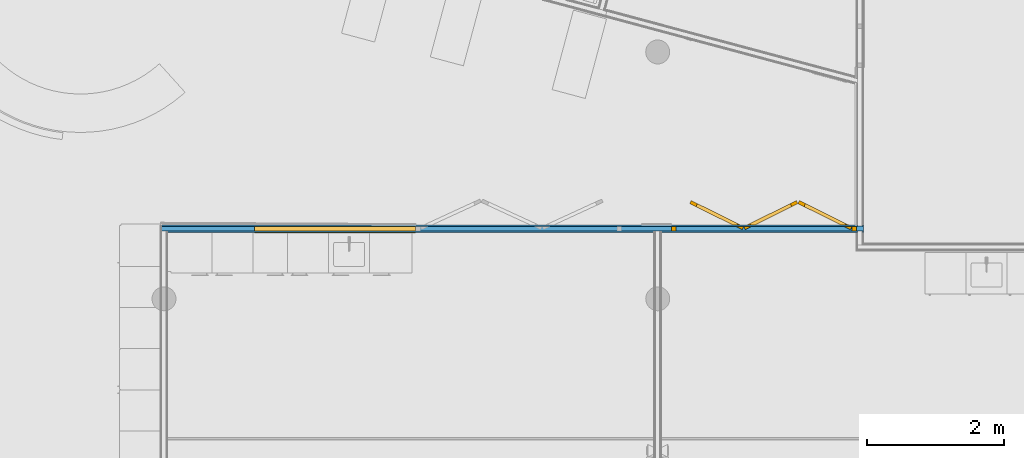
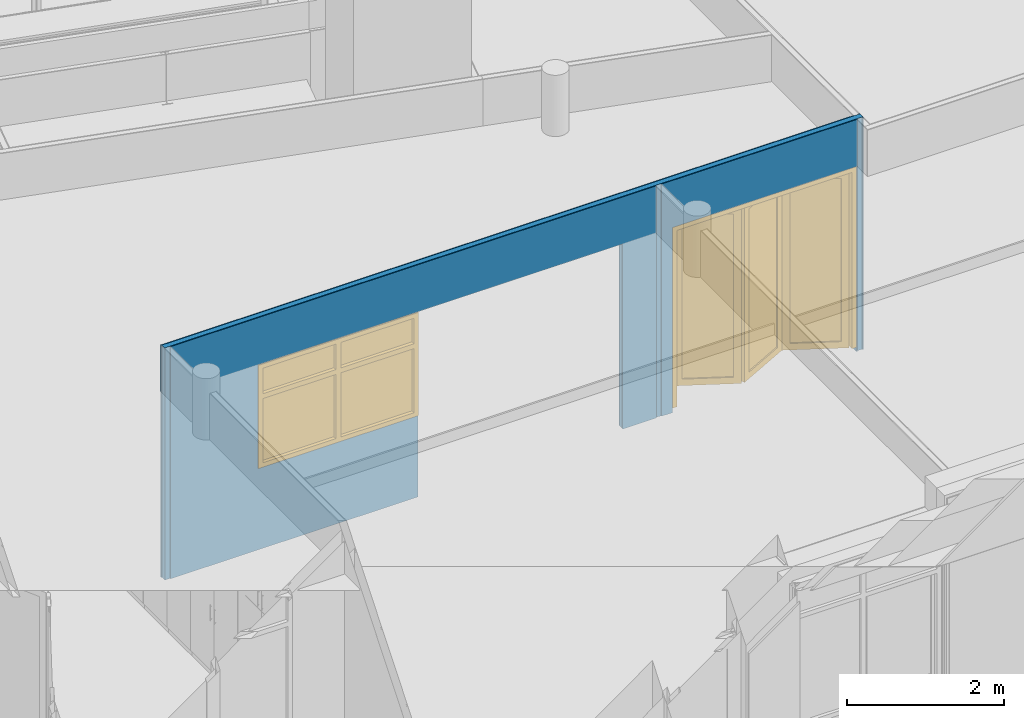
# One storey, part 25 of 167: 3 building element parts, 1 door, 1 window, 3 openings, 1 element without a shape of its own.
"""IFC2X3 building model written with IfcOpenShell, lengths in millimetres."""

from ifc_helpers import new_model, entity, si_unit, converted_unit, derived_unit, money_unit, direction, frame, origin_with_axes, place, context, subcontext, project, spatial, open_shell, faceted_brep, surface_model, material, type_object, element, fill, aggregate, save


model = new_model("IFC2X3")

# Units and contexts
model_context = context("Model", 3, precision=0.01, world=origin_with_axes(), true_north=direction((0.0, 1.0)))
plan_context = context("Plan", 3, precision=0.01, world=origin_with_axes(), true_north=direction((0.0, 1.0)))
body_context = subcontext(model_context, "Body", "Model", "MODEL_VIEW")
ifc_project = project(units=[si_unit("LENGTHUNIT", "METRE", prefix="MILLI"), si_unit("AREAUNIT", "SQUARE_METRE"), si_unit("VOLUMEUNIT", "CUBIC_METRE"), converted_unit("PLANEANGLEUNIT", "DEGREE", entity("IfcPlaneAngleMeasure", 0.0174532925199), si_unit("PLANEANGLEUNIT", "RADIAN"), dimensions=[0, 0, 0, 0, 0, 0, 0]), si_unit("SOLIDANGLEUNIT", "STERADIAN"), money_unit("EUR"), converted_unit("TIMEUNIT", "Year", entity("IfcTimeMeasure", 31556926.0), si_unit("TIMEUNIT", "SECOND"), dimensions=[0, 0, 1, 0, 0, 0, 0]), si_unit("MASSUNIT", "GRAM", prefix="KILO"), si_unit("THERMODYNAMICTEMPERATUREUNIT", "DEGREE_CELSIUS"), si_unit("LUMINOUSINTENSITYUNIT", "LUMEN"), si_unit("ENERGYUNIT", "JOULE", prefix="MEGA"), derived_unit("THERMALCONDUCTANCEUNIT", [(si_unit("POWERUNIT", "WATT"), 1), (si_unit("LENGTHUNIT", "METRE"), -1), (si_unit("THERMODYNAMICTEMPERATUREUNIT", "KELVIN"), -1)]), derived_unit("SPECIFICHEATCAPACITYUNIT", [(si_unit("ENERGYUNIT", "JOULE"), 1), (si_unit("MASSUNIT", "GRAM", prefix="KILO"), -1), (si_unit("THERMODYNAMICTEMPERATUREUNIT", "KELVIN"), -1)]), derived_unit("MASSDENSITYUNIT", [(si_unit("MASSUNIT", "GRAM", prefix="KILO"), 1), (si_unit("VOLUMEUNIT", "CUBIC_METRE"), -1)])], contexts=[model_context, plan_context])

# Site, building, storey
site_placement = place(None, origin_with_axes())
site = spatial("IfcSite", under=ifc_project, at=site_placement, Name="Site", CompositionType="ELEMENT")
building_placement = place(site_placement, origin_with_axes())
building = spatial("IfcBuilding", under=site, at=building_placement, Name="Naam gebouw", CompositionType="ELEMENT")
storey_placement = place(building_placement, origin_with_axes())
storey = spatial("IfcBuildingStorey", under=building, at=storey_placement, Name="Begane grond", CompositionType="ELEMENT", Elevation=0.0)

# Window
window_style = type_object("IfcWindowStyle", Name="R2 bl ol 24", ConstructionType="NOTDEFINED", OperationType="USERDEFINED", ParameterTakesPrecedence=False, Sizeable=False)
wall_placement = place(storey_placement, frame((24600.0, 8223.34783859, -100.0), z_axis=(0.0, 0.0, 1.0), x_axis=(-1.0, 0.0, 0.0)))
opening_1_placement = place(wall_placement, frame((7705.0, 0.0, 1300.0), z_axis=(0.0, 0.0, 1.0), x_axis=(1.0, 0.0, 0.0)))
window_placement = place(opening_1_placement, frame((1175.0, 0.0, 0.0), z_axis=(0.0, 0.0, 1.0), x_axis=(-1.0, 0.0, 0.0)))
window = element("IfcWindow", 1, at=window_placement, inside=storey, type_object=window_style, Name="31_Raam_Hi-53", ObjectType="WINDOW", OverallHeight=1600.0, OverallWidth=2350.0, context=body_context, shape_type="SurfaceModel", body=[
    faceted_brep([(67.0, -64.0, 1062.5), (67.0, 50.0, 1062.5), (67.0, 50.0, 1137.5), (67.0, -64.0, 1137.5), (67.0, -64.0, 67.0), (67.0, 50.0, 67.0), (0.0, 50.0, 67.0), (0.0, 50.0, 1533.0), (67.0, 50.0, 1533.0), (67.0, -64.0, 1533.0), (0.0, -64.0, 1533.0), (0.0, -64.0, 67.0)], [[[0, 1, 2, 3]], [[4, 5, 1, 0]], [[1, 5, 6, 7, 8, 2]], [[3, 2, 8, 9]], [[0, 3, 9, 10, 11, 4]], [[11, 6, 5, 4]], [[10, 7, 6, 11]], [[9, 8, 7, 10]]]),
    faceted_brep([(2283.0, -64.0, 67.0), (2283.0, 50.0, 67.0), (2350.0, 50.0, 67.0), (2350.0, -64.0, 67.0), (2283.0, -64.0, 1062.5), (2283.0, 50.0, 1062.5), (2283.0, 50.0, 1137.5), (2283.0, 50.0, 1533.0), (2350.0, 50.0, 1533.0), (2350.0, -64.0, 1533.0), (2283.0, -64.0, 1533.0), (2283.0, -64.0, 1137.5)], [[[0, 1, 2, 3]], [[4, 5, 1, 0]], [[1, 5, 6, 7, 8, 2]], [[3, 2, 8, 9]], [[0, 3, 9, 10, 11, 4]], [[11, 6, 5, 4]], [[10, 7, 6, 11]], [[9, 8, 7, 10]]]),
    faceted_brep([(1137.5, -64.0, 1137.5), (1137.5, 50.0, 1137.5), (1137.5, 50.0, 1062.5), (1137.5, -64.0, 1062.5), (1137.5, -64.0, 1533.0), (1137.5, 50.0, 1533.0), (1212.5, 50.0, 1533.0), (1212.5, 50.0, 1137.5), (1212.5, 50.0, 1062.5), (1212.5, 50.0, 67.0), (1137.5, 50.0, 67.0), (1137.5, -64.0, 67.0), (1212.5, -64.0, 67.0), (1212.5, -64.0, 1062.5), (1212.5, -64.0, 1137.5), (1212.5, -64.0, 1533.0)], [[[0, 1, 2, 3]], [[4, 5, 1, 0]], [[1, 5, 6, 7, 8, 9, 10, 2]], [[3, 2, 10, 11]], [[0, 3, 11, 12, 13, 14, 15, 4]], [[15, 6, 5, 4]], [[14, 7, 6, 15]], [[13, 8, 7, 14]], [[12, 9, 8, 13]], [[11, 10, 9, 12]]]),
    faceted_brep([(2283.0, -64.0, 1062.5), (2283.0, 50.0, 1062.5), (2283.0, 50.0, 1137.5), (2283.0, -64.0, 1137.5), (1212.5, -64.0, 1062.5), (1212.5, 50.0, 1062.5), (1212.5, 50.0, 1137.5), (1212.5, -64.0, 1137.5)], [[[0, 1, 2, 3]], [[4, 5, 1, 0]], [[1, 5, 6, 2]], [[3, 2, 6, 7]], [[0, 3, 7, 4]], [[7, 6, 5, 4]]]),
    faceted_brep([(67.0, -64.0, 1137.5), (67.0, 50.0, 1137.5), (67.0, 50.0, 1062.5), (67.0, -64.0, 1062.5), (1137.5, -64.0, 1137.5), (1137.5, 50.0, 1137.5), (1137.5, 50.0, 1062.5), (1137.5, -64.0, 1062.5)], [[[0, 1, 2, 3]], [[4, 5, 1, 0]], [[1, 5, 6, 2]], [[3, 2, 6, 7]], [[0, 3, 7, 4]], [[7, 6, 5, 4]]]),
    faceted_brep([(67.0, -64.0, 67.0), (67.0, 50.0, 67.0), (0.0, 50.0, 67.0), (0.0, -64.0, 67.0), (1137.5, -64.0, 67.0), (1137.5, 50.0, 67.0), (1212.5, 50.0, 67.0), (2283.0, 50.0, 67.0), (2350.0, 50.0, 67.0), (2350.0, 50.0, 0.0), (0.0, 50.0, 0.0), (0.0, -64.0, 0.0), (2350.0, -64.0, 0.0), (2350.0, -64.0, 67.0), (2283.0, -64.0, 67.0), (1212.5, -64.0, 67.0)], [[[0, 1, 2, 3]], [[4, 5, 1, 0]], [[1, 5, 6, 7, 8, 9, 10, 2]], [[3, 2, 10, 11]], [[0, 3, 11, 12, 13, 14, 15, 4]], [[15, 6, 5, 4]], [[14, 7, 6, 15]], [[13, 8, 7, 14]], [[12, 9, 8, 13]], [[11, 10, 9, 12]]]),
    faceted_brep([(1137.5, -64.0, 1533.0), (1137.5, 50.0, 1533.0), (1212.5, 50.0, 1533.0), (1212.5, -64.0, 1533.0), (67.0, -64.0, 1533.0), (67.0, 50.0, 1533.0), (0.0, 50.0, 1533.0), (0.0, 50.0, 1600.0), (2350.0, 50.0, 1600.0), (2350.0, 50.0, 1533.0), (2283.0, 50.0, 1533.0), (2283.0, -64.0, 1533.0), (2350.0, -64.0, 1533.0), (2350.0, -64.0, 1600.0), (0.0, -64.0, 1600.0), (0.0, -64.0, 1533.0)], [[[0, 1, 2, 3]], [[4, 5, 1, 0]], [[1, 5, 6, 7, 8, 9, 10, 2]], [[3, 2, 10, 11]], [[0, 3, 11, 12, 13, 14, 15, 4]], [[15, 6, 5, 4]], [[14, 7, 6, 15]], [[13, 8, 7, 14]], [[12, 9, 8, 13]], [[11, 10, 9, 12]]]),
    surface_model("IfcShellBasedSurfaceModel", [(67.0, -14.0, 1137.5), (1137.5, -14.0, 1137.5), (1137.5, -14.0, 1533.0), (67.0, -14.0, 1533.0)], [open_shell([[[0, 1, 2, 3]]])]),
    surface_model("IfcShellBasedSurfaceModel", [(67.0, 6.0, 1137.5), (67.0, 6.0, 1533.0), (1137.5, 6.0, 1533.0), (1137.5, 6.0, 1137.5)], [open_shell([[[0, 1, 2, 3]]])]),
    surface_model("IfcShellBasedSurfaceModel", [(1212.5, -14.0, 1137.5), (2283.0, -14.0, 1137.5), (2283.0, -14.0, 1533.0), (1212.5, -14.0, 1533.0)], [open_shell([[[0, 1, 2, 3]]])]),
    surface_model("IfcShellBasedSurfaceModel", [(1212.5, 6.0, 1137.5), (1212.5, 6.0, 1533.0), (2283.0, 6.0, 1533.0), (2283.0, 6.0, 1137.5)], [open_shell([[[0, 1, 2, 3]]])]),
    surface_model("IfcShellBasedSurfaceModel", [(67.0, -14.0, 67.0), (1137.5, -14.0, 67.0), (1137.5, -14.0, 1062.5), (67.0, -14.0, 1062.5)], [open_shell([[[0, 1, 2, 3]]])]),
    surface_model("IfcShellBasedSurfaceModel", [(67.0, 6.0, 67.0), (67.0, 6.0, 1062.5), (1137.5, 6.0, 1062.5), (1137.5, 6.0, 67.0)], [open_shell([[[0, 1, 2, 3]]])]),
    surface_model("IfcShellBasedSurfaceModel", [(1212.5, -14.0, 67.0), (2283.0, -14.0, 67.0), (2283.0, -14.0, 1062.5), (1212.5, -14.0, 1062.5)], [open_shell([[[0, 1, 2, 3]]])]),
    surface_model("IfcShellBasedSurfaceModel", [(1212.5, 6.0, 67.0), (1212.5, 6.0, 1062.5), (2283.0, 6.0, 1062.5), (2283.0, 6.0, 67.0)], [open_shell([[[0, 1, 2, 3]]])]),
])

# Door
door_style = type_object("IfcDoorStyle", Name="DV1 24", ConstructionType="NOTDEFINED", OperationType="FOLDING_TO_LEFT", ParameterTakesPrecedence=False, Sizeable=False)
opening_2_placement = place(wall_placement, frame((1450.0, 0.0, 100.0), z_axis=(0.0, 0.0, 1.0), x_axis=(1.0, 0.0, 0.0)))
door_placement = place(opening_2_placement, frame((1350.0, 0.0, 0.0), z_axis=(0.0, 0.0, 1.0), x_axis=(-1.0, 0.0, 0.0)))
door = element("IfcDoor", 2, at=door_placement, inside=storey, type_object=door_style, Name="32_Deur_Si-03", ObjectType="DOOR", OverallHeight=2800.0, OverallWidth=2700.0, context=body_context, shape_type="SurfaceModel", body=[
    faceted_brep([(2700.0, 30.0, 0.0), (2700.0, -50.0, 0.0), (2633.0, -50.0, 0.0), (2633.0, 30.0, 0.0), (2700.0, 30.0, 2733.0), (2700.0, -50.0, 2733.0), (2633.0, -50.0, 2733.0), (2633.0, 30.0, 2733.0)], [[[0, 1, 2, 3]], [[4, 5, 1, 0]], [[1, 5, 6, 2]], [[3, 2, 6, 7]], [[0, 3, 7, 4]], [[7, 6, 5, 4]]]),
    faceted_brep([(0.0, 30.0, 0.0), (0.0, -50.0, 0.0), (0.0, -50.0, 2733.0), (0.0, 30.0, 2733.0), (67.0, 30.0, 0.0), (67.0, -50.0, 0.0), (67.0, -50.0, 2733.0), (67.0, 30.0, 2733.0)], [[[0, 1, 2, 3]], [[4, 5, 1, 0]], [[1, 5, 6, 2]], [[3, 2, 6, 7]], [[0, 3, 7, 4]], [[7, 6, 5, 4]]]),
    faceted_brep([(2700.0, 30.0, 2800.0), (2700.0, -50.0, 2800.0), (2700.0, -50.0, 2733.0), (2700.0, 30.0, 2733.0), (0.0, 30.0, 2800.0), (0.0, -50.0, 2800.0), (0.0, -50.0, 2733.0), (67.0, -50.0, 2733.0), (2633.0, -50.0, 2733.0), (2633.0, 30.0, 2733.0), (67.0, 30.0, 2733.0), (0.0, 30.0, 2733.0)], [[[0, 1, 2, 3]], [[4, 5, 1, 0]], [[1, 5, 6, 7, 8, 2]], [[3, 2, 8, 9]], [[0, 3, 9, 10, 11, 4]], [[11, 6, 5, 4]], [[10, 7, 6, 11]], [[9, 8, 7, 10]]]),
    faceted_brep([(2633.0, 30.0, 100.0), (2610.80870806, -14.8056532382, 100.0), (2521.19740159, 29.5769306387, 100.0), (2543.38869352, 74.3825838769, 100.0), (2633.0, 30.0, 2633.0), (2610.80870806, -14.8056532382, 2633.0), (2521.19740159, 29.5769306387, 2633.0), (2543.38869352, 74.3825838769, 2633.0)], [[[0, 1, 2, 3]], [[4, 5, 1, 0]], [[1, 5, 6, 2]], [[3, 2, 6, 7]], [[0, 3, 7, 4]], [[7, 6, 5, 4]]]),
    faceted_brep([(1866.52462527, 409.619034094, 100.0), (1844.33333333, 364.813380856, 100.0), (1844.33333333, 364.813380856, 2633.0), (1866.52462527, 409.619034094, 2633.0), (1956.13593175, 365.236450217, 100.0), (1933.94463981, 320.430796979, 100.0), (1933.94463981, 320.430796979, 2633.0), (1956.13593175, 365.236450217, 2633.0)], [[[0, 1, 2, 3]], [[4, 5, 1, 0]], [[1, 5, 6, 2]], [[3, 2, 6, 7]], [[0, 3, 7, 4]], [[7, 6, 5, 4]]]),
    faceted_brep([(2633.0, 30.0, 0.0), (2610.80870806, -14.8056532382, 0.0), (1844.33333333, 364.813380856, 0.0), (1866.52462527, 409.619034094, 0.0), (2633.0, 30.0, 100.0), (2610.80870806, -14.8056532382, 100.0), (2521.19740159, 29.5769306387, 100.0), (1933.94463981, 320.430796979, 100.0), (1844.33333333, 364.813380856, 100.0), (1866.52462527, 409.619034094, 100.0), (1956.13593175, 365.236450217, 100.0), (2543.38869352, 74.3825838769, 100.0)], [[[0, 1, 2, 3]], [[4, 5, 1, 0]], [[1, 5, 6, 7, 8, 2]], [[3, 2, 8, 9]], [[0, 3, 9, 10, 11, 4]], [[11, 6, 5, 4]], [[10, 7, 6, 11]], [[9, 8, 7, 10]]]),
    faceted_brep([(2633.0, 30.0, 2733.0), (2610.80870806, -14.8056532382, 2733.0), (2610.80870806, -14.8056532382, 2633.0), (2633.0, 30.0, 2633.0), (1866.52462527, 409.619034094, 2733.0), (1844.33333333, 364.813380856, 2733.0), (1844.33333333, 364.813380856, 2633.0), (1933.94463981, 320.430796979, 2633.0), (2521.19740159, 29.5769306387, 2633.0), (2543.38869352, 74.3825838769, 2633.0), (1956.13593175, 365.236450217, 2633.0), (1866.52462527, 409.619034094, 2633.0)], [[[0, 1, 2, 3]], [[4, 5, 1, 0]], [[1, 5, 6, 7, 8, 2]], [[3, 2, 8, 9]], [[0, 3, 9, 10, 11, 4]], [[11, 6, 5, 4]], [[10, 7, 6, 11]], [[9, 8, 7, 10]]]),
    surface_model("IfcShellBasedSurfaceModel", [(1947.70324081, 348.210301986, 100.0), (1947.70324081, 348.210301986, 2633.0), (2534.95600259, 57.3564356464, 2633.0), (2534.95600259, 57.3564356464, 100.0)], [open_shell([[[0, 1, 2, 3]]])]),
    surface_model("IfcShellBasedSurfaceModel", [(1942.37733075, 337.456945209, 100.0), (2529.63009252, 46.6030788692, 100.0), (2529.63009252, 46.6030788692, 2633.0), (1942.37733075, 337.456945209, 2633.0)], [open_shell([[[0, 1, 2, 3]]])]),
    faceted_brep([(1822.14204139, 409.619034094, 100.0), (1844.33333333, 364.813380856, 100.0), (1754.72202686, 320.430796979, 100.0), (1732.53073492, 365.236450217, 100.0), (1822.14204139, 409.619034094, 2633.0), (1844.33333333, 364.813380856, 2633.0), (1754.72202686, 320.430796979, 2633.0), (1732.53073492, 365.236450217, 2633.0)], [[[0, 1, 2, 3]], [[4, 5, 1, 0]], [[1, 5, 6, 2]], [[3, 2, 6, 7]], [[0, 3, 7, 4]], [[7, 6, 5, 4]]]),
    faceted_brep([(1055.66666667, 30.0, 100.0), (1077.85795861, -14.8056532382, 100.0), (1077.85795861, -14.8056532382, 2633.0), (1055.66666667, 30.0, 2633.0), (1145.27797314, 74.3825838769, 100.0), (1167.46926508, 29.5769306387, 100.0), (1167.46926508, 29.5769306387, 2633.0), (1145.27797314, 74.3825838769, 2633.0)], [[[0, 1, 2, 3]], [[4, 5, 1, 0]], [[1, 5, 6, 2]], [[3, 2, 6, 7]], [[0, 3, 7, 4]], [[7, 6, 5, 4]]]),
    faceted_brep([(1822.14204139, 409.619034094, 0.0), (1844.33333333, 364.813380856, 0.0), (1077.85795861, -14.8056532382, 0.0), (1055.66666667, 30.0, 0.0), (1822.14204139, 409.619034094, 100.0), (1844.33333333, 364.813380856, 100.0), (1754.72202686, 320.430796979, 100.0), (1167.46926508, 29.5769306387, 100.0), (1077.85795861, -14.8056532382, 100.0), (1055.66666667, 30.0, 100.0), (1145.27797314, 74.3825838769, 100.0), (1732.53073492, 365.236450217, 100.0)], [[[0, 1, 2, 3]], [[4, 5, 1, 0]], [[1, 5, 6, 7, 8, 2]], [[3, 2, 8, 9]], [[0, 3, 9, 10, 11, 4]], [[11, 6, 5, 4]], [[10, 7, 6, 11]], [[9, 8, 7, 10]]]),
    faceted_brep([(1822.14204139, 409.619034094, 2733.0), (1844.33333333, 364.813380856, 2733.0), (1844.33333333, 364.813380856, 2633.0), (1822.14204139, 409.619034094, 2633.0), (1055.66666667, 30.0, 2733.0), (1077.85795861, -14.8056532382, 2733.0), (1077.85795861, -14.8056532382, 2633.0), (1167.46926508, 29.5769306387, 2633.0), (1754.72202686, 320.430796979, 2633.0), (1732.53073492, 365.236450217, 2633.0), (1145.27797314, 74.3825838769, 2633.0), (1055.66666667, 30.0, 2633.0)], [[[0, 1, 2, 3]], [[4, 5, 1, 0]], [[1, 5, 6, 7, 8, 2]], [[3, 2, 8, 9]], [[0, 3, 9, 10, 11, 4]], [[11, 6, 5, 4]], [[10, 7, 6, 11]], [[9, 8, 7, 10]]]),
    surface_model("IfcShellBasedSurfaceModel", [(1153.71066408, 57.3564356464, 100.0), (1153.71066408, 57.3564356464, 2633.0), (1740.96342586, 348.210301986, 2633.0), (1740.96342586, 348.210301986, 100.0)], [open_shell([[[0, 1, 2, 3]]])]),
    surface_model("IfcShellBasedSurfaceModel", [(1159.03657414, 46.6030788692, 100.0), (1746.28933592, 337.456945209, 100.0), (1746.28933592, 337.456945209, 2633.0), (1159.03657414, 46.6030788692, 2633.0)], [open_shell([[[0, 1, 2, 3]]])]),
    faceted_brep([(1055.66666667, 30.0, 100.0), (1033.47537473, -14.8056532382, 100.0), (943.864068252, 29.5769306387, 100.0), (966.05536019, 74.3825838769, 100.0), (1055.66666667, 30.0, 2633.0), (1033.47537473, -14.8056532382, 2633.0), (943.864068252, 29.5769306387, 2633.0), (966.05536019, 74.3825838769, 2633.0)], [[[0, 1, 2, 3]], [[4, 5, 1, 0]], [[1, 5, 6, 2]], [[3, 2, 6, 7]], [[0, 3, 7, 4]], [[7, 6, 5, 4]]]),
    faceted_brep([(289.191291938, 409.619034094, 100.0), (267.0, 364.813380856, 100.0), (267.0, 364.813380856, 2633.0), (289.191291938, 409.619034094, 2633.0), (378.802598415, 365.236450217, 100.0), (356.611306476, 320.430796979, 100.0), (356.611306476, 320.430796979, 2633.0), (378.802598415, 365.236450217, 2633.0)], [[[0, 1, 2, 3]], [[4, 5, 1, 0]], [[1, 5, 6, 2]], [[3, 2, 6, 7]], [[0, 3, 7, 4]], [[7, 6, 5, 4]]]),
    faceted_brep([(1055.66666667, 30.0, 0.0), (1033.47537473, -14.8056532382, 0.0), (267.0, 364.813380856, 0.0), (289.191291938, 409.619034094, 0.0), (1055.66666667, 30.0, 100.0), (1033.47537473, -14.8056532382, 100.0), (943.864068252, 29.5769306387, 100.0), (356.611306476, 320.430796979, 100.0), (267.0, 364.813380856, 100.0), (289.191291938, 409.619034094, 100.0), (378.802598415, 365.236450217, 100.0), (966.05536019, 74.3825838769, 100.0)], [[[0, 1, 2, 3]], [[4, 5, 1, 0]], [[1, 5, 6, 7, 8, 2]], [[3, 2, 8, 9]], [[0, 3, 9, 10, 11, 4]], [[11, 6, 5, 4]], [[10, 7, 6, 11]], [[9, 8, 7, 10]]]),
    faceted_brep([(1055.66666667, 30.0, 2733.0), (1033.47537473, -14.8056532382, 2733.0), (1033.47537473, -14.8056532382, 2633.0), (1055.66666667, 30.0, 2633.0), (289.191291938, 409.619034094, 2733.0), (267.0, 364.813380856, 2733.0), (267.0, 364.813380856, 2633.0), (356.611306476, 320.430796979, 2633.0), (943.864068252, 29.5769306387, 2633.0), (966.05536019, 74.3825838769, 2633.0), (378.802598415, 365.236450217, 2633.0), (289.191291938, 409.619034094, 2633.0)], [[[0, 1, 2, 3]], [[4, 5, 1, 0]], [[1, 5, 6, 7, 8, 2]], [[3, 2, 8, 9]], [[0, 3, 9, 10, 11, 4]], [[11, 6, 5, 4]], [[10, 7, 6, 11]], [[9, 8, 7, 10]]]),
    surface_model("IfcShellBasedSurfaceModel", [(370.369907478, 348.210301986, 100.0), (370.369907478, 348.210301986, 2633.0), (957.622669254, 57.3564356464, 2633.0), (957.622669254, 57.3564356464, 100.0)], [open_shell([[[0, 1, 2, 3]]])]),
    surface_model("IfcShellBasedSurfaceModel", [(365.043997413, 337.456945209, 100.0), (952.296759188, 46.6030788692, 100.0), (952.296759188, 46.6030788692, 2633.0), (365.043997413, 337.456945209, 2633.0)], [open_shell([[[0, 1, 2, 3]]])]),
])

# Wall, opening
wall_type = type_object("IfcWallType", Name="_TenW_22_Metalstud 100 enkel gipsvezelplaat 100", PredefinedType="NOTDEFINED")
wall = element("IfcWall", 3, at=wall_placement, inside=storey, type_object=wall_type, Name="22_Wand_Wand-x")
opening_1 = element("IfcOpeningElement", 4, at=opening_1_placement, cuts=wall, Name="31_Raam_Hi-53", context=body_context, shape_type="Brep", body=[
    faceted_brep([(-1175.0, 100.0, 1600.0), (-1175.0, 100.0, 0.0), (-1175.0, -200.0, 0.0), (-1175.0, -200.0, 1600.0), (1175.0, 100.0, 1600.0), (1175.0, 100.0, 0.0), (1175.0, -200.0, 0.0), (1175.0, -200.0, 1600.0)], [[[0, 1, 2, 3]], [[0, 4, 5, 1]], [[1, 5, 6, 2]], [[3, 2, 6, 7]], [[4, 0, 3, 7]], [[5, 4, 7, 6]]]),
])

fill(opening_1, window)

# Opening
opening_2 = element("IfcOpeningElement", 5, at=opening_2_placement, cuts=wall, Name="32_Deur_Si-03", context=body_context, shape_type="Brep", body=[
    faceted_brep([(1350.0, 200.0, 0.0), (1350.0, 200.0, 2800.0), (1350.0, -100.0, 2800.0), (1350.0, -100.0, 0.0), (-1350.0, 200.0, 0.0), (-1350.0, 200.0, 2800.0), (-1350.0, -100.0, 2800.0), (-1350.0, -100.0, 0.0)], [[[0, 1, 2, 3]], [[0, 4, 5, 1]], [[1, 5, 6, 2]], [[3, 2, 6, 7]], [[4, 0, 3, 7]], [[5, 4, 7, 6]]]),
])

fill(opening_2, door)

opening_3_placement = place(wall_placement, frame((5030.0, 0.0, 100.0), z_axis=(0.0, 0.0, 1.0), x_axis=(1.0, 0.0, 0.0)))
element("IfcOpeningElement", 6, at=opening_3_placement, cuts=wall, Name="32_Deur_Si-02s", context=body_context, shape_type="Brep", body=[
    faceted_brep([(-1500.0, -100.0, 0.0), (-1500.0, -100.0, 2800.0), (-1500.0, 200.0, 2800.0), (-1500.0, 200.0, 0.0), (1500.0, -100.0, 0.0), (1500.0, -100.0, 2800.0), (1500.0, 200.0, 2800.0), (1500.0, 200.0, 0.0)], [[[0, 1, 2, 3]], [[0, 4, 5, 1]], [[1, 5, 6, 2]], [[3, 2, 6, 7]], [[4, 0, 3, 7]], [[5, 4, 7, 6]]]),
])

# Building element part
ifc_material_1 = material(Name="Gipsplaat watervast")
building_element_part_1_placement = place(wall_placement, origin_with_axes())
building_element_part_1 = element("IfcBuildingElementPart", 7, at=building_element_part_1_placement, material=ifc_material_1, Name="Gipsplaat watervast", context=body_context, shape_type="Brep", body=[
    faceted_brep([(6530.0, 50.0, 1300.0), (6530.0, 37.5, 1300.0), (8880.0, 37.5, 1300.0), (8880.0, 50.0, 1300.0), (6530.0, 37.5, 100.0), (6530.0, 50.0, 100.0), (3530.0, 37.5, 2900.0), (6530.0, 37.5, 2900.0), (8880.0, 37.5, 2900.0), (6530.0, 37.5, 30.0), (10162.5, 37.5, 30.0), (10162.5, 37.5, 3630.0), (3037.5, 37.5, 3630.0), (3037.5, 37.5, 30.0), (3530.0, 37.5, 30.0), (3530.0, 37.5, 100.0), (8880.0, 50.0, 2900.0), (3530.0, 50.0, 2900.0), (3530.0, 50.0, 100.0), (3530.0, 50.0, 30.0), (3037.5, 50.0, 30.0), (3037.5, 50.0, 3630.0), (10162.5, 50.0, 3630.0), (10162.5, 50.0, 30.0), (6530.0, 50.0, 30.0), (6530.0, 50.0, 2900.0)], [[[0, 1, 2, 3]], [[4, 1, 0, 5]], [[6, 7, 8, 2, 1, 4, 9, 10, 11, 12, 13, 14, 15]], [[8, 16, 3, 2]], [[17, 18, 19, 20, 21, 22, 23, 24, 5, 0, 3, 16, 25]], [[4, 5, 24, 9]], [[7, 6, 17, 25, 16, 8]], [[23, 10, 9, 24]], [[22, 11, 10, 23]], [[21, 12, 11, 22]], [[12, 21, 20, 13]], [[13, 20, 19, 14]], [[18, 15, 14, 19]], [[6, 15, 18, 17]]]),
    faceted_brep([(2800.0, 37.5, 2900.0), (2800.0, 37.5, 100.0), (2800.0, 37.5, 30.0), (2962.5, 37.5, 30.0), (2962.5, 37.5, 3630.0), (87.5, 37.5, 3630.0), (87.5, 37.5, 30.0), (100.0, 37.5, 30.0), (100.0, 37.5, 100.0), (100.0, 37.5, 2900.0), (2800.0, 50.0, 2900.0), (2800.0, 50.0, 100.0), (2800.0, 50.0, 30.0), (2962.5, 50.0, 30.0), (2962.5, 50.0, 3630.0), (87.5, 50.0, 3630.0), (87.5, 50.0, 30.0), (100.0, 50.0, 30.0), (100.0, 50.0, 100.0), (100.0, 50.0, 2900.0)], [[[0, 1, 2, 3, 4, 5, 6, 7, 8, 9]], [[1, 0, 10, 11]], [[1, 11, 12, 2]], [[12, 13, 3, 2]], [[13, 14, 4, 3]], [[14, 15, 5, 4]], [[6, 5, 15, 16]], [[7, 6, 16, 17]], [[18, 8, 7, 17]], [[9, 8, 18, 19]], [[0, 9, 19, 10]], [[19, 18, 17, 16, 15, 14, 13, 12, 11, 10]]]),
    faceted_brep([(0.0, 50.0, 30.0), (0.0, 37.5, 30.0), (0.0, 37.5, 3630.0), (0.0, 50.0, 3630.0), (12.5, 37.5, 30.0), (12.5, 50.0, 30.0), (12.5, 37.5, 3630.0), (12.5, 50.0, 3630.0)], [[[0, 1, 2, 3]], [[4, 1, 0, 5]], [[1, 4, 6, 2]], [[6, 7, 3, 2]], [[5, 0, 3, 7]], [[4, 5, 7, 6]]]),
])

ifc_material_2 = material(Name="Isolatie - Steenwol zacht")
building_element_part_2_placement = place(wall_placement, origin_with_axes())
building_element_part_2 = element("IfcBuildingElementPart", 8, at=building_element_part_2_placement, material=ifc_material_2, Name="Isolatie - Steenwol zacht", context=body_context, shape_type="Brep", body=[
    faceted_brep([(6530.0, 37.5, 1300.0), (6530.0, -37.5, 1300.0), (8880.0, -37.5, 1300.0), (8880.0, 37.5, 1300.0), (6530.0, -37.5, 100.0), (6530.0, 37.5, 100.0), (3530.0, -37.5, 2900.0), (6530.0, -37.5, 2900.0), (8880.0, -37.5, 2900.0), (6530.0, -37.5, 30.0), (10237.5, -37.5, 30.0), (10237.5, -37.5, 3630.0), (0.0, -37.5, 3630.0), (0.0, -37.5, 30.0), (100.0, -37.5, 30.0), (100.0, -37.5, 100.0), (100.0, -37.5, 2900.0), (2800.0, -37.5, 2900.0), (2800.0, -37.5, 100.0), (2800.0, -37.5, 30.0), (3530.0, -37.5, 30.0), (3530.0, -37.5, 100.0), (8880.0, 37.5, 2900.0), (3530.0, 37.5, 2900.0), (3530.0, 37.5, 100.0), (3530.0, 37.5, 30.0), (2800.0, 37.5, 30.0), (2800.0, 37.5, 100.0), (2800.0, 37.5, 2900.0), (100.0, 37.5, 2900.0), (100.0, 37.5, 100.0), (100.0, 37.5, 30.0), (0.0, 37.5, 30.0), (0.0, 37.5, 3630.0), (10237.5, 37.5, 3630.0), (10237.5, 37.5, 30.0), (6530.0, 37.5, 30.0), (6530.0, 37.5, 2900.0)], [[[0, 1, 2, 3]], [[4, 1, 0, 5]], [[6, 7, 8, 2, 1, 4, 9, 10, 11, 12, 13, 14, 15, 16, 17, 18, 19, 20, 21]], [[22, 3, 2, 8]], [[23, 24, 25, 26, 27, 28, 29, 30, 31, 32, 33, 34, 35, 36, 5, 0, 3, 22, 37]], [[4, 5, 36, 9]], [[7, 6, 23, 37, 22, 8]], [[10, 9, 36, 35]], [[11, 10, 35, 34]], [[12, 11, 34, 33]], [[33, 32, 13, 12]], [[32, 31, 14, 13]], [[15, 14, 31, 30]], [[15, 30, 29, 16]], [[16, 29, 28, 17]], [[17, 28, 27, 18]], [[27, 26, 19, 18]], [[26, 25, 20, 19]], [[24, 21, 20, 25]], [[6, 21, 24, 23]]]),
])

building_element_part_3_placement = place(wall_placement, origin_with_axes())
building_element_part_3 = element("IfcBuildingElementPart", 9, at=building_element_part_3_placement, material=ifc_material_1, Name="Gipsplaat watervast", context=body_context, shape_type="Brep", body=[
    faceted_brep([(6530.0, -37.5, 1300.0), (6530.0, -50.0, 1300.0), (8880.0, -50.0, 1300.0), (8880.0, -37.5, 1300.0), (6530.0, -50.0, 100.0), (6530.0, -37.5, 100.0), (3530.0, -50.0, 2900.0), (6530.0, -50.0, 2900.0), (8880.0, -50.0, 2900.0), (6530.0, -50.0, 30.0), (10250.0, -50.0, 30.0), (10250.0, -50.0, 3630.0), (87.5, -50.0, 3630.0), (87.5, -50.0, 30.0), (100.0, -50.0, 30.0), (100.0, -50.0, 100.0), (100.0, -50.0, 1300.0), (100.0, -50.0, 2900.0), (2800.0, -50.0, 2900.0), (2800.0, -50.0, 100.0), (2800.0, -50.0, 30.0), (3530.0, -50.0, 30.0), (3530.0, -50.0, 100.0), (8880.0, -37.5, 2900.0), (3530.0, -37.5, 2900.0), (3530.0, -37.5, 100.0), (3530.0, -37.5, 30.0), (2800.0, -37.5, 30.0), (2800.0, -37.5, 100.0), (2800.0, -37.5, 2900.0), (100.0, -37.5, 2900.0), (100.0, -37.5, 1300.0), (100.0, -37.5, 100.0), (100.0, -37.5, 30.0), (87.5, -37.5, 30.0), (87.5, -37.5, 3630.0), (10250.0, -37.5, 3630.0), (10250.0, -37.5, 30.0), (6530.0, -37.5, 30.0), (6530.0, -37.5, 2900.0)], [[[0, 1, 2, 3]], [[4, 1, 0, 5]], [[6, 7, 8, 2, 1, 4, 9, 10, 11, 12, 13, 14, 15, 16, 17, 18, 19, 20, 21, 22]], [[23, 3, 2, 8]], [[24, 25, 26, 27, 28, 29, 30, 31, 32, 33, 34, 35, 36, 37, 38, 5, 0, 3, 23, 39]], [[4, 5, 38, 9]], [[7, 6, 24, 39, 23, 8]], [[10, 9, 38, 37]], [[11, 10, 37, 36]], [[35, 12, 11, 36]], [[35, 34, 13, 12]], [[34, 33, 14, 13]], [[33, 32, 15, 14]], [[16, 15, 32, 31]], [[16, 31, 30, 17]], [[17, 30, 29, 18]], [[18, 29, 28, 19]], [[28, 27, 20, 19]], [[27, 26, 21, 20]], [[25, 22, 21, 26]], [[6, 22, 25, 24]]]),
    faceted_brep([(0.0, -37.5, 30.0), (0.0, -50.0, 30.0), (0.0, -50.0, 3630.0), (0.0, -37.5, 3630.0), (12.5, -50.0, 30.0), (12.5, -37.5, 30.0), (12.5, -50.0, 3630.0), (12.5, -37.5, 3630.0)], [[[0, 1, 2, 3]], [[4, 1, 0, 5]], [[1, 4, 6, 2]], [[6, 7, 3, 2]], [[5, 0, 3, 7]], [[4, 5, 7, 6]]]),
])

aggregate(wall, [building_element_part_1, building_element_part_2, building_element_part_3])

save(model, "model.ifc")
